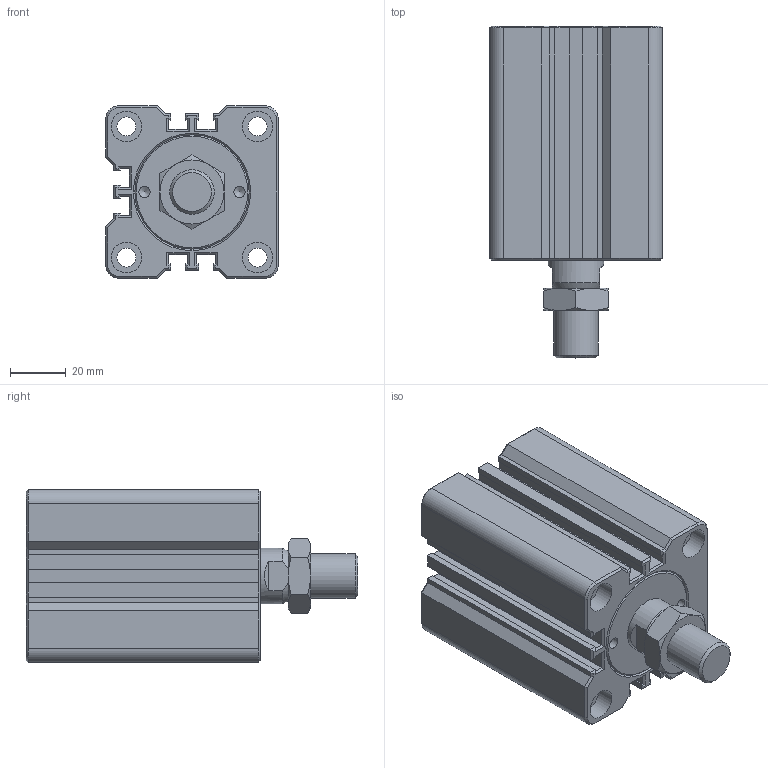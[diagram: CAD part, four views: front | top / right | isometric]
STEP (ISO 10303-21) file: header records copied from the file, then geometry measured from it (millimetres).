
FILE_DESCRIPTION(/* description */ (''),/* implementation_level */ '2;1');
FILE_NAME(/* name */ 'HTM70-SDMB32X30W',/* time_stamp */ '2019-06-05T16:25:40+08:00',/* author */ ('JEFF HUANG'),/* organization */ ('TAIWAN AMAC CLAMP INDUSTRIAL CO., LTD.'),/* preprocessor_version */ 'ST-DEVELOPER v16.7',/* originating_system */ 'DEX',/* authorisation */ $);
FILE_SCHEMA (('AUTOMOTIVE_DESIGN {1 0 10303 214 3 1 1}'));
Length unit declared in the file: millimetre
Products named in the file (1): HTM70-SDMB32X30W
Bounding box: 62 x 119 x 62 mm (x, y, z)
Volume: 279794.8 mm3; surface area: 47142.4 mm2
Topology: 1 solids, 1 shells, 341 faces, 787 edges, 470 vertices
Faces by surface type: plane 226, cone 52, bspline 36, cylinder 27
Full cylindrical faces by diameter (mm): 4.1 x2, 5 x2, 6 x1, 6.8 x4, 11 x8, 12 x2, 13 x2, 16 x1, 20 x1
Entity records: 11889 total; most frequent: CARTESIAN_POINT 2290, ORIENTED_EDGE 1472, DIRECTION 1356, EDGE_CURVE 736, LINE 492, VECTOR 492, VERTEX_POINT 458, AXIS2_PLACEMENT_3D 432
